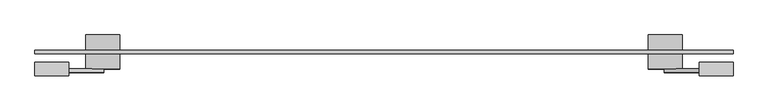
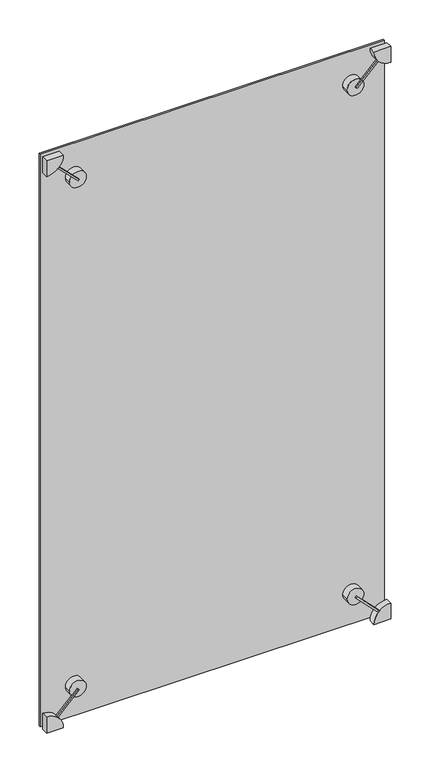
"""IFC4 building model written with IfcOpenShell, lengths in millimetres: plate geometry, 点爪式幕墙嵌板 : 点爪式幕墙嵌板."""

from ifc_helpers import new_model, si_unit, point, frame, frame_2d, origin, origin_with_axes, place, context, project, spatial, polyline, circle_curve, trimmed, segment, composite_curve, outline, extrude, source, transform, mapped, element, save
from ifc_brep_helpers import plane_surface, cylinder_surface, advanced_brep


def plate_f9a451e8(model_context):
    return source(origin(), model_context, "Body", "SolidModel", [
        extrude(outline(polyline([(0.0, -10.0), (0.0, 0.0), (10.0, 0.0), (10.0, -10.0), (0.0, -10.0)])), frame((-958.7667022, -60.0, 73.3043656), z_axis=(0.7071067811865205, 0.0, 0.7071067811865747), x_axis=(0.0, 1.0, 0.0)), (0.0, 0.0, 1.0), 181.331972),
        extrude(outline(composite_curve([segment(trimmed(circle_curve(frame_2d((0.0, -1025.0)), 100.0), [point((0.0, -925.0))], [point((100.0, -1025.0))], False, "CARTESIAN"), True, "CONTINUOUS"), segment(polyline([(100.0, -1025.0), (0.0, -1025.0), (0.0, -925.0)]), True, "CONTINUOUS")], self_intersect=False)), frame((0.0, -70.0, 0.0), z_axis=(0.0, 1.0, 0.0), x_axis=(0.0, 0.0, 1.0)), (0.0, 0.0, 1.0), 40.0),
        extrude(outline(composite_curve([segment(trimmed(circle_curve(frame_2d((199.0051024, -825.9948976)), 50.0), [point((199.0051024, -775.9948976))], [point((199.0051024, -875.9948976))], False, "CARTESIAN"), True, "CONTINUOUS"), segment(trimmed(circle_curve(frame_2d((199.0051024, -825.9948976)), 50.0), [point((199.0051024, -875.9948976))], [point((199.0051024, -775.9948976))], False, "CARTESIAN"), True, "CONTINUOUS")], self_intersect=False)), frame((0.0, -50.0, 0.0), z_axis=(0.0, 1.0, 0.0), x_axis=(0.0, 0.0, 1.0)), (0.0, 0.0, 1.0), 100.0),
        extrude(outline(polyline([(0.0, -181.3319719), (0.0, 0.0), (10.0, 0.0), (10.0, -181.3319719), (0.0, -181.3319719)])), frame((823.4745674, -60.0, 194.4543648), z_axis=(0.7071067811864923, 0.0, 0.7071067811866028), x_axis=(0.0, 1.0, 0.0)), (0.0, 0.0, 1.0), 10.0),
        extrude(outline(composite_curve([segment(polyline([(0.0, 925.0), (0.0, 1025.0), (100.0, 1025.0)]), True, "CONTINUOUS"), segment(trimmed(circle_curve(frame_2d((0.0, 1025.0)), 100.0), [point((100.0, 1025.0))], [point((0.0, 925.0))], False, "CARTESIAN"), True, "CONTINUOUS")], self_intersect=False)), frame((0.0, -70.0, 0.0), z_axis=(0.0, 1.0, 0.0), x_axis=(0.0, 0.0, 1.0)), (0.0, 0.0, 1.0), 40.0),
        extrude(outline(composite_curve([segment(trimmed(circle_curve(frame_2d((199.0051024, 825.9948976)), 50.0), [point((199.0051024, 775.9948976))], [point((199.0051024, 875.9948976))], False, "CARTESIAN"), True, "CONTINUOUS"), segment(trimmed(circle_curve(frame_2d((199.0051024, 825.9948976)), 50.0), [point((199.0051024, 875.9948976))], [point((199.0051024, 775.9948976))], False, "CARTESIAN"), True, "CONTINUOUS")], self_intersect=False)), frame((0.0, -50.0, 0.0), z_axis=(0.0, 1.0, 0.0), x_axis=(0.0, 0.0, 1.0)), (0.0, 0.0, 1.0), 100.0),
        extrude(outline(polyline([(0.0, -181.3319719), (0.0, 0.0), (10.0, 0.0), (10.0, -181.3319719), (0.0, -181.3319719)])), frame((-958.7667022, -60.0, 3526.6956344), z_axis=(0.7071067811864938, 0.0, 0.7071067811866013), x_axis=(0.0, 1.0, 0.0)), (0.0, 0.0, 1.0), 10.0),
        extrude(outline(composite_curve([segment(polyline([(3600.0, -925.0), (3600.0, -1025.0), (3500.0, -1025.0)]), True, "CONTINUOUS"), segment(trimmed(circle_curve(frame_2d((3600.0, -1025.0)), 100.0), [point((3500.0, -1025.0))], [point((3600.0, -925.0))], False, "CARTESIAN"), True, "CONTINUOUS")], self_intersect=False)), frame((0.0, -70.0, 0.0), z_axis=(0.0, 1.0, 0.0), x_axis=(0.0, 0.0, 1.0)), (0.0, 0.0, 1.0), 40.0),
        extrude(outline(composite_curve([segment(trimmed(circle_curve(frame_2d((3400.9948976, -825.9948976)), 50.0), [point((3400.9948976, -775.9948976))], [point((3400.9948976, -875.9948976))], False, "CARTESIAN"), True, "CONTINUOUS"), segment(trimmed(circle_curve(frame_2d((3400.9948976, -825.9948976)), 50.0), [point((3400.9948976, -875.9948976))], [point((3400.9948976, -775.9948976))], False, "CARTESIAN"), True, "CONTINUOUS")], self_intersect=False)), frame((0.0, -50.0, 0.0), z_axis=(0.0, 1.0, 0.0), x_axis=(0.0, 0.0, 1.0)), (0.0, 0.0, 1.0), 100.0),
        advanced_brep(
        [(775.9948976, -50.0, 3400.9948976), (875.9948976, -50.0, 3400.9948976), (864.7085497, -50.0, 3432.6374819), (830.5456352, -50.0, 3398.4745674), (823.4745674, -50.0, 3405.5456352), (857.6374819, -50.0, 3439.7085497), (775.9948976, 50.0, 3400.9948976), (875.9948976, 50.0, 3400.9948976), (823.4745674, -60.0, 3405.5456352), (830.5456352, -60.0, 3398.4745674), (957.9132994, -60.0, 3525.8422316), (950.8422316, -60.0, 3532.9132994), (950.8422316, -50.0, 3532.9132994), (957.9132994, -50.0, 3525.8422316), (925.0, -70.0, 3600.0), (1025.0, -70.0, 3500.0), (1025.0, -70.0, 3600.0), (925.0, -30.0, 3600.0), (1025.0, -30.0, 3600.0), (1025.0, -30.0, 3500.0)],
        [
            (0, 1, circle_curve(frame((825.9948976, -50.0, 3400.9948976), z_axis=(0.0, -1.0, 0.0), x_axis=(1.0, 0.0, 0.0)), 50.0)),
            (1, 2, circle_curve(frame((825.9948976, -50.0, 3400.9948976), z_axis=(0.0, -1.0, 0.0), x_axis=(1.0, 0.0, 0.0)), 50.0)),
            (2, 3),
            (3, 4),
            (4, 5),
            (5, 0, circle_curve(frame((825.9948976, -50.0, 3400.9948976), z_axis=(0.0, -1.0, 0.0), x_axis=(1.0, 0.0, 0.0)), 50.0)),
            (6, 7, circle_curve(frame((825.9948976, 50.0, 3400.9948976), z_axis=(0.0, 1.0, 0.0), x_axis=(1.0, 0.0, 0.0)), 50.0)),
            (7, 6, circle_curve(frame((825.9948976, 50.0, 3400.9948976), z_axis=(0.0, 1.0, 0.0), x_axis=(1.0, 0.0, 0.0)), 50.0)),
            (0, 6),
            (7, 1),
            (5, 2, circle_curve(frame((825.9948976, -50.0, 3400.9948976), z_axis=(0.0, 1.0, 0.0), x_axis=(1.0, 0.0, 0.0)), 50.0)),
            (8, 9),
            (9, 10),
            (10, 11, circle_curve(frame((1025.0, -60.0, 3600.0), z_axis=(0.0, 1.0, 0.0), x_axis=(1.0, 0.0, 0.0)), 100.0)),
            (11, 8),
            (5, 12),
            (12, 13, circle_curve(frame((1025.0, -50.0, 3600.0), z_axis=(0.0, -1.0, 0.0), x_axis=(1.0, 0.0, 0.0)), 100.0)),
            (13, 2),
            (4, 8),
            (11, 12),
            (3, 9),
            (13, 10),
            (14, 15, circle_curve(frame((1025.0, -70.0, 3600.0), z_axis=(0.0, -1.0, 0.0), x_axis=(1.0, 0.0, 0.0)), 100.0)),
            (15, 16),
            (16, 14),
            (17, 18),
            (18, 19),
            (19, 17, circle_curve(frame((1025.0, -30.0, 3600.0), z_axis=(0.0, 1.0, 0.0), x_axis=(1.0, 0.0, 0.0)), 100.0)),
            (14, 17),
            (19, 15),
            (18, 16),
        ],
        [
            plane_surface(frame((875.9948976, -50.0, 3400.9948976), z_axis=(0.0, -1.0, 0.0), x_axis=(0.0, 0.0, 1.0))),
            plane_surface(frame((875.9948976, 50.0, 3400.9948976), z_axis=(0.0, 1.0, 0.0), x_axis=(0.0, 0.0, -1.0))),
            cylinder_surface(frame((825.9948976, 50.0, 3400.9948976), z_axis=(0.0, -1.0, 0.0), x_axis=(1.0, 0.0, 0.0)), 50.0),
            plane_surface(frame((823.4745674, -60.0, 3405.5456352), z_axis=(0.0, -1.0000000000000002, 0.0), x_axis=(-0.7071067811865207, 0.0, -0.7071067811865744))),
            plane_surface(frame((823.4745674, -50.0, 3405.5456352), z_axis=(0.0, 1.0000000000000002, 0.0), x_axis=(0.7071067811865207, 0.0, 0.7071067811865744))),
            plane_surface(frame((951.6956344, -60.0, 3533.7667022), z_axis=(-0.7071067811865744, 0.0, 0.7071067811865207), x_axis=(0.0, 1.0, 0.0))),
            plane_surface(frame((823.4745674, -60.0, 3405.5456352), z_axis=(-0.7071067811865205, 0.0, -0.7071067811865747), x_axis=(0.0, 1.0, 0.0))),
            plane_surface(frame((830.5456352, -60.0, 3398.4745674), z_axis=(0.7071067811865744, 0.0, -0.7071067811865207), x_axis=(0.0, 1.0, 0.0))),
            plane_surface(frame((1125.0, -70.0, 3600.0), z_axis=(0.0, -1.0, 0.0), x_axis=(0.0, 0.0, 1.0))),
            plane_surface(frame((1125.0, -30.0, 3600.0), z_axis=(0.0, 1.0, 0.0), x_axis=(0.0, 0.0, -1.0))),
            cylinder_surface(frame((1025.0, -30.0, 3600.0), z_axis=(0.0, -1.0, 0.0), x_axis=(1.0, 0.0, 0.0)), 100.0),
            plane_surface(frame((1025.0, -70.0, 3500.0), z_axis=(1.0, 0.0, 0.0), x_axis=(0.0, 1.0, 0.0))),
            plane_surface(frame((1025.0, -70.0, 3600.0), z_axis=(0.0, 0.0, 1.0), x_axis=(0.0, 1.0, 0.0))),
        ],
        [
            (0, [[1, 2, 3, 4, 5, 6]]),
            (1, [[7, 8]]),
            (2, [[-1, 9, -8, 10]]),
            (2, [[-7, -9, -6, 11, -2, -10]]),
            (3, [[12, 13, 14, 15]]),
            (4, [[-11, 16, 17, 18]]),
            (5, [[19, -15, 20, -16, -5]]),
            (6, [[-12, -19, -4, 21]]),
            (7, [[-21, -3, -18, 22, -13]]),
            (8, [[23, 24, 25]]),
            (9, [[26, 27, 28]]),
            (10, [[-23, 29, -28, 30], [-14, -22, -17, -20]]),
            (11, [[-24, -30, -27, 31]]),
            (12, [[-25, -31, -26, -29]]),
        ],
    ),
        extrude(outline(polyline([(1025.0, 5.0), (1025.0, -5.0), (-1025.0, -5.0), (-1025.0, 5.0), (1025.0, 5.0)])), origin_with_axes(), (0.0, 0.0, 1.0), 3600.0),
    ])


if __name__ == "__main__":
    model = new_model("IFC4")
    model_context = context("Model", 3, world=origin())
    ifc_project = project(units=[si_unit("LENGTHUNIT", "METRE", prefix="MILLI")], contexts=[model_context])
    site = spatial("IfcSite", under=ifc_project)
    building = spatial("IfcBuilding", under=site)
    placement = place(None, origin())
    plate_shape = plate_f9a451e8(model_context)
    element("IfcPlate", 1, ObjectType="点爪式幕墙嵌板 : 点爪式幕墙嵌板", at=placement, inside=building, context=model_context, shape_type="MappedRepresentation", body=[
        mapped(plate_shape, transform((0.0, 0.0, 0.0), x_axis=(1.0, 0.0, 0.0), y_axis=(0.0, 1.0, 0.0), z_axis=(0.0, 0.0, 1.0))),
    ])
    save(model, "model.ifc")
